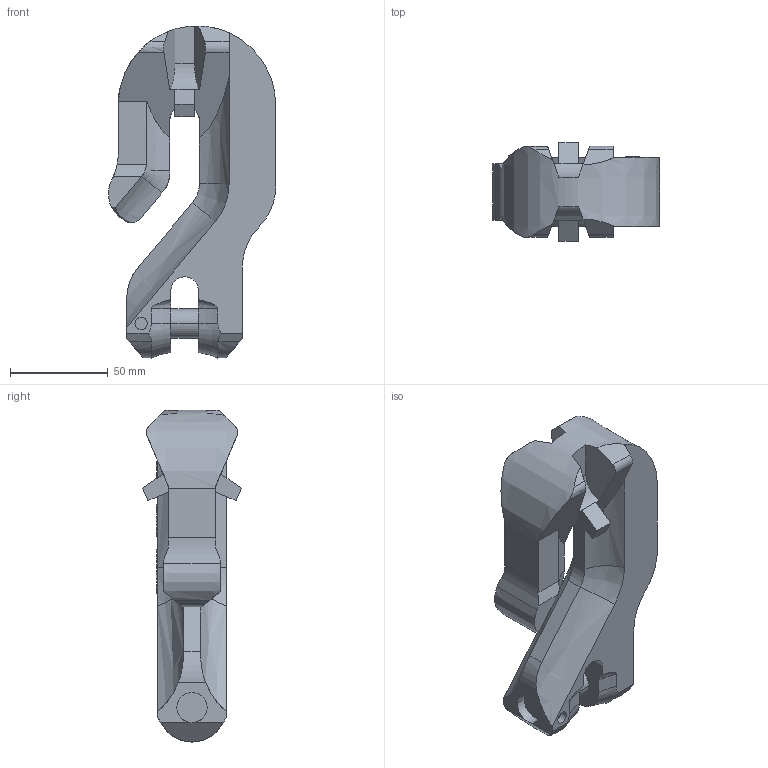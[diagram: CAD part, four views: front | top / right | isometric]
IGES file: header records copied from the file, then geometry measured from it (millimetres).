
Start section:  PTC IGES file: C:\Aktuell-Internet\CAD-Daten\3vvh13.igs
Global section: file name: C:\Aktuell-Internet\CAD-Daten\3vvh13.igs; native system: Pro/ENGINEER by Parametric Technology Corporation; preprocessor: 2001400; author: jakubetz; organization: Unknown; date: 030821.130920; units: millimetre
Bounding box: 85.75 x 50.64 x 170.22 mm (x, y, z)
Surface area: 41233.6 mm2 (no closed solid volume)
Topology: 0 solids, 0 shells, 332 faces, 1848 edges, 1848 vertices
Faces by surface type: bspline 280, revolution 52
